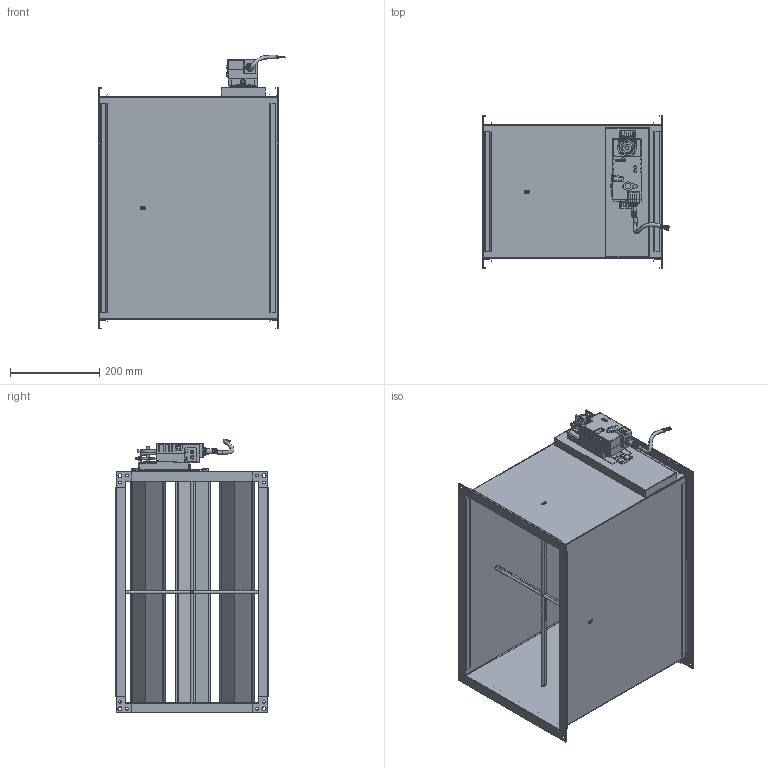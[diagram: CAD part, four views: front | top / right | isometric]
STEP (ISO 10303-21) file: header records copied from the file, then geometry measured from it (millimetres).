
FILE_DESCRIPTION (( 'STEP AP214' ), '1' );
FILE_NAME ('VAV-S500300.STEP', '2025-05-07T13:44:19', ( '' ), ( '' ), 'SwSTEP 2.0', 'SolidWorks 2025', '' );
FILE_SCHEMA (( 'AUTOMOTIVE_DESIGN' ));
Length unit declared in the file: millimetre
Products named in the file (1): VAV-S500300
Bounding box: 420.9 x 341 x 613.68 mm (x, y, z)
Surface area: 2346526.7 mm2 (no closed solid volume)
Topology: 0 solids, 58 shells, 2094 faces, 5402 edges, 3433 vertices
Faces by surface type: plane 1531, cylinder 510, bspline 24, sphere 18, cone 10, torus 1
Full cylindrical faces by diameter (mm): 1 x4, 4 x8, 6 x1, 6.044 x6, 6.105 x6, 8 x1, 9 x6, 11 x1, 20 x1, 21 x2
Entity records: 91558 total; most frequent: CARTESIAN_POINT 41712, ORIENTED_EDGE 10577, DIRECTION 6792, EDGE_CURVE 5312, VERTEX_POINT 3403, B_SPLINE_CURVE_WITH_KNOTS 3162, AXIS2_PLACEMENT_3D 2603, EDGE_LOOP 2298
